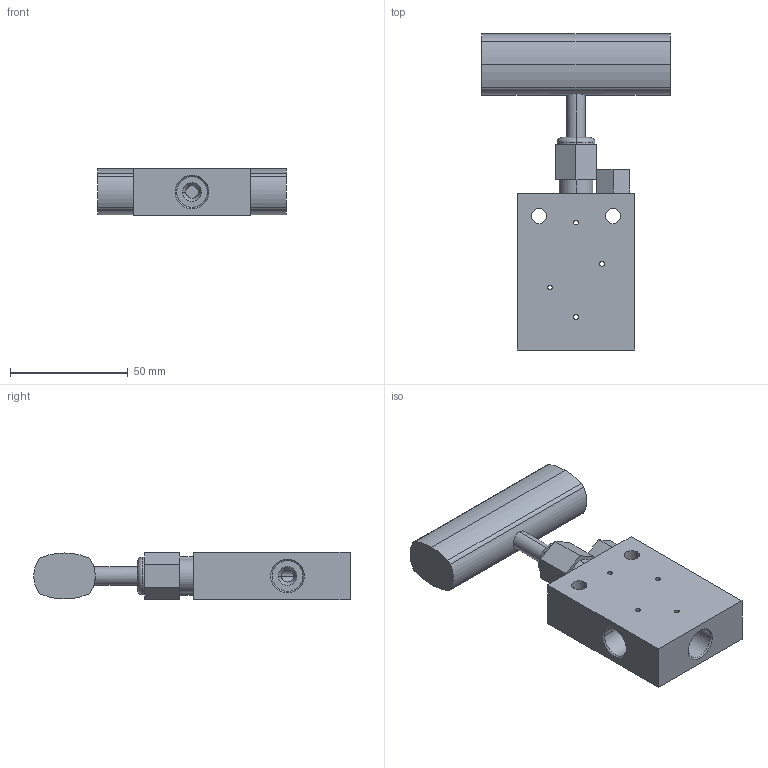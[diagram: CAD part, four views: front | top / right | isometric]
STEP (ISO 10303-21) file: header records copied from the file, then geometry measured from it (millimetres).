
FILE_DESCRIPTION (( 'STEP AP203' ), '1' );
FILE_NAME ('NV20VS06-T-00-00.STEP', '2023-02-23T08:07:14', ( 'USER' ), ( '' ), 'SwSTEP 2.0', 'SolidWorks 2020', '' );
FILE_SCHEMA (( 'CONFIG_CONTROL_DESIGN' ));
Length unit declared in the file: millimetre
Products named in the file (1): NV20VS06-T-00-00
Bounding box: 80 x 133.95 x 20 mm (x, y, z)
Volume: 98297.7 mm3; surface area: 24611.9 mm2
Topology: 1 solids, 1 shells, 107 faces, 261 edges, 164 vertices
Faces by surface type: cylinder 55, plane 30, cone 20, torus 2
Entity records: 3738 total; most frequent: CARTESIAN_POINT 1049, DIRECTION 563, ORIENTED_EDGE 522, EDGE_CURVE 261, AXIS2_PLACEMENT_3D 218, VERTEX_POINT 164, EDGE_LOOP 139, VECTOR 127
